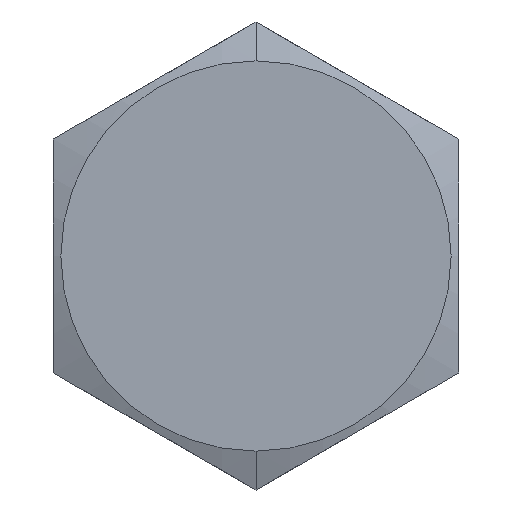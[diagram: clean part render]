
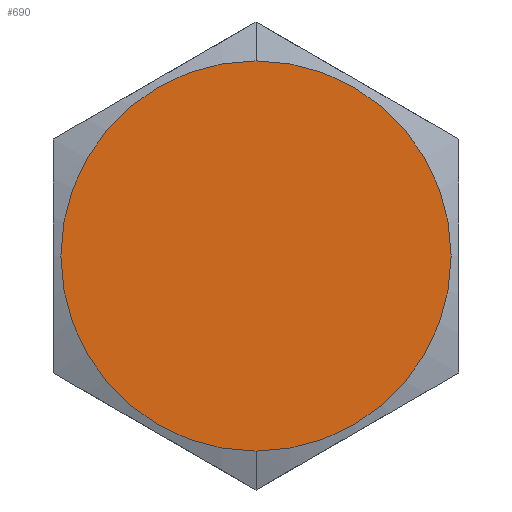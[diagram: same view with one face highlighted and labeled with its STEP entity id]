
A CAD part, left-side view. The second image highlights one B-rep face of the part: STEP entity #690.
In plain terms, the highlighted planar face has unit normal (-1, 0, 0).
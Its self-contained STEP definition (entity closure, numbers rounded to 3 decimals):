
#27 = AXIS2_PLACEMENT_3D ( 'NONE', #6490, #6495, #6496 ) ;
#85 = CIRCLE ( 'NONE', #89, 13. ) ;
#89 = AXIS2_PLACEMENT_3D ( 'NONE', #4034, #4033, #4032 ) ;
#638 = EDGE_CURVE ( 'NONE', #5662, #5682, #85, .T. ) ;
#690 = ADVANCED_FACE ( 'NONE', ( #6487 ), #6493, .F. ) ;
#2095 = CARTESIAN_POINT ( 'NONE',  ( -21.5, 0., 0. ) ) ;
#2096 = DIRECTION ( 'NONE',  ( -1., 0., 0. ) ) ;
#2097 = DIRECTION ( 'NONE',  ( 0., 0., 1. ) ) ;
#4032 = DIRECTION ( 'NONE',  ( 0., 0., 1. ) ) ;
#4033 = DIRECTION ( 'NONE',  ( -1., 0., 0. ) ) ;
#4034 = CARTESIAN_POINT ( 'NONE',  ( -21.5, 0., 0. ) ) ;
#4134 = AXIS2_PLACEMENT_3D ( 'NONE', #2095, #2096, #2097 ) ;
#4138 = CIRCLE ( 'NONE', #4134, 13. ) ;
#4314 = CARTESIAN_POINT ( 'NONE',  ( -21.5, 0., -13. ) ) ;
#4346 = CARTESIAN_POINT ( 'NONE',  ( -21.5, 0., 13. ) ) ;
#5423 = EDGE_LOOP ( 'NONE', ( #5524, #5484 ) ) ;
#5484 = ORIENTED_EDGE ( 'NONE', *, *, #638, .T. ) ;
#5524 = ORIENTED_EDGE ( 'NONE', *, *, #7728, .T. ) ;
#5662 = VERTEX_POINT ( 'NONE', #4314 ) ;
#5682 = VERTEX_POINT ( 'NONE', #4346 ) ;
#6487 = FACE_OUTER_BOUND ( 'NONE', #5423, .T. ) ;
#6490 = CARTESIAN_POINT ( 'NONE',  ( -21.5, 0., 0. ) ) ;
#6493 = PLANE ( 'NONE',  #27 ) ;
#6495 = DIRECTION ( 'NONE',  ( 1., 0., 0. ) ) ;
#6496 = DIRECTION ( 'NONE',  ( 0., 0., -1. ) ) ;
#7728 = EDGE_CURVE ( 'NONE', #5682, #5662, #4138, .T. ) ;
